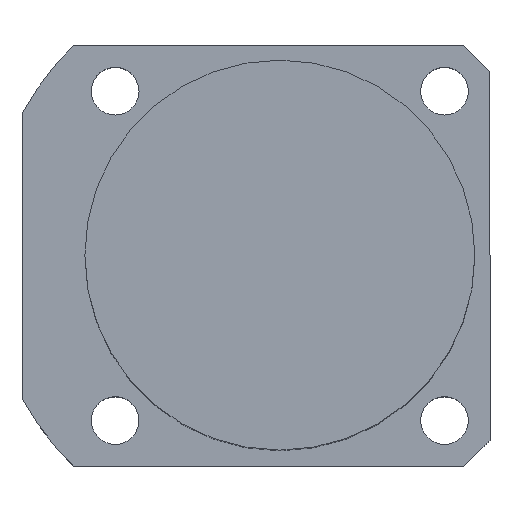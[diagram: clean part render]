
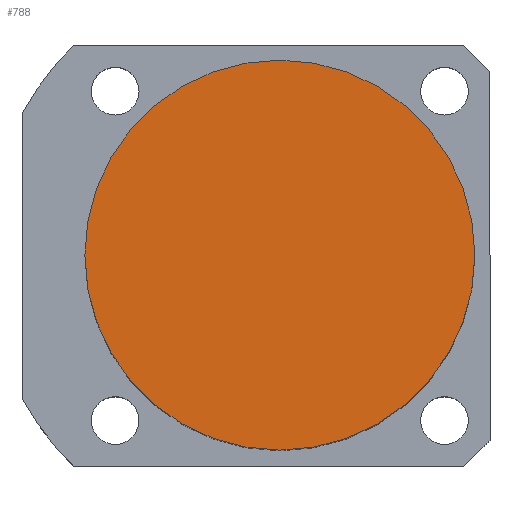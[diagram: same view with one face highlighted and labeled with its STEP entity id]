
A CAD part, top view. The second image highlights one B-rep face of the part: STEP entity #788.
In plain terms, the highlighted planar face has unit normal (0, 0, 1).
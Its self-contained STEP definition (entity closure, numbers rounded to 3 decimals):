
#97 = AXIS2_PLACEMENT_3D ( 'NONE', #946, #254, #939 ) ;
#123 = PLANE ( 'NONE',  #914 ) ;
#148 = EDGE_LOOP ( 'NONE', ( #477, #640 ) ) ;
#254 = DIRECTION ( 'NONE',  ( 0., 0., 1. ) ) ;
#477 = ORIENTED_EDGE ( 'NONE', *, *, #535, .T. ) ;
#491 = CIRCLE ( 'NONE', #97, 45. ) ;
#535 = EDGE_CURVE ( 'NONE', #772, #912, #1438, .T. ) ;
#640 = ORIENTED_EDGE ( 'NONE', *, *, #1023, .T. ) ;
#772 = VERTEX_POINT ( 'NONE', #1328 ) ;
#788 = ADVANCED_FACE ( 'NONE', ( #2163 ), #123, .T. ) ;
#818 = DIRECTION ( 'NONE',  ( 1., 0., 0. ) ) ;
#892 = DIRECTION ( 'NONE',  ( 0., 0., 1. ) ) ;
#912 = VERTEX_POINT ( 'NONE', #1886 ) ;
#914 = AXIS2_PLACEMENT_3D ( 'NONE', #1170, #1851, #818 ) ;
#939 = DIRECTION ( 'NONE',  ( 1., 0., 0. ) ) ;
#946 = CARTESIAN_POINT ( 'NONE',  ( 0., 0., 114.5 ) ) ;
#1023 = EDGE_CURVE ( 'NONE', #912, #772, #491, .T. ) ;
#1170 = CARTESIAN_POINT ( 'NONE',  ( 0., 0., 114.5 ) ) ;
#1328 = CARTESIAN_POINT ( 'NONE',  ( -45., 0., 114.5 ) ) ;
#1395 = DIRECTION ( 'NONE',  ( 1., 0., 0. ) ) ;
#1438 = CIRCLE ( 'NONE', #1943, 45. ) ;
#1749 = CARTESIAN_POINT ( 'NONE',  ( 0., 0., 114.5 ) ) ;
#1851 = DIRECTION ( 'NONE',  ( 0., 0., 1. ) ) ;
#1886 = CARTESIAN_POINT ( 'NONE',  ( 45., 0., 114.5 ) ) ;
#1943 = AXIS2_PLACEMENT_3D ( 'NONE', #1749, #892, #1395 ) ;
#2163 = FACE_OUTER_BOUND ( 'NONE', #148, .T. ) ;
